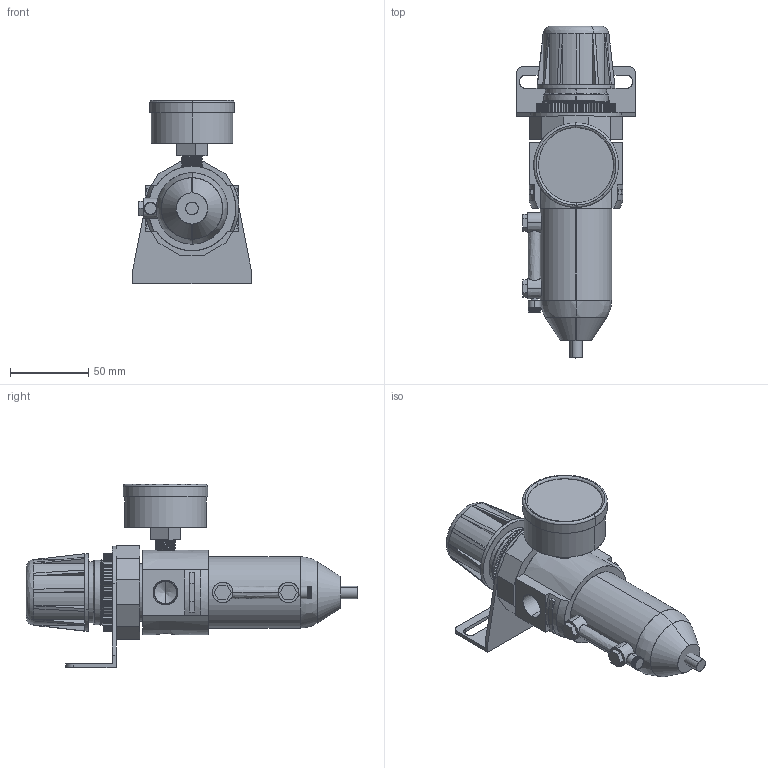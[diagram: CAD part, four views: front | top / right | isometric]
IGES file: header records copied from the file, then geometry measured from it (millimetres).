
Start section: SolidWorks IGES file using analytic representation for surfaces
Global section: file name: C:\Users\Toshiba\Desktop\B011W-03#YGB#.IGS; native system: SolidWorks 2014; preprocessor: SolidWorks 2014; author: Toshiba; date: 160216.150603; units: millimetre
Bounding box: 76 x 212 x 117 mm (x, y, z)
Surface area: 77220.7 mm2 (no closed solid volume)
Topology: 0 solids, 0 shells, 727 faces, 7030 edges, 7022 vertices
Faces by surface type: bspline 518, revolution 209
